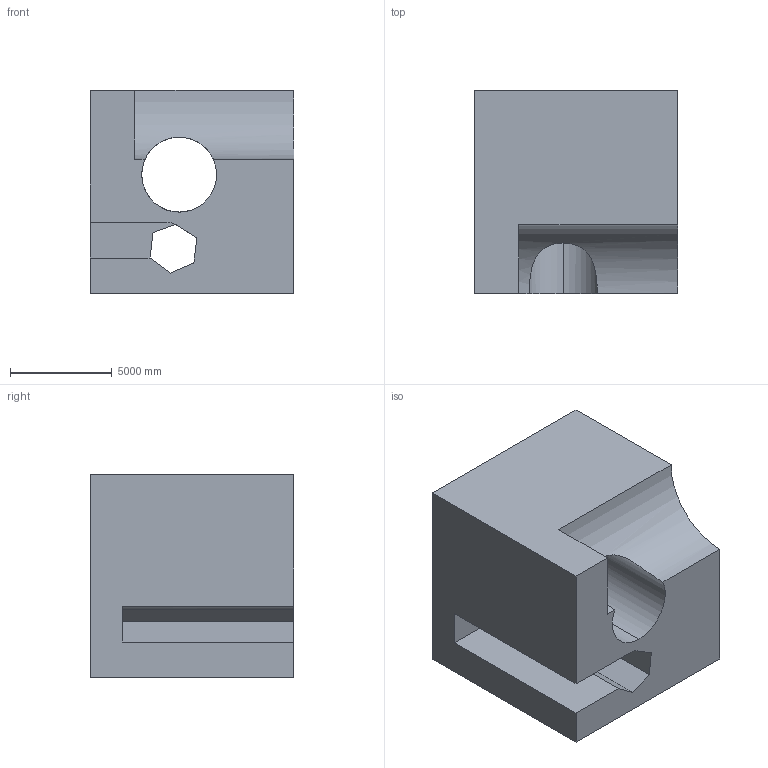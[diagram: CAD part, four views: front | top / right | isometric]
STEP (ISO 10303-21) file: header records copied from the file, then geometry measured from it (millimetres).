
FILE_DESCRIPTION (( 'STEP AP203' ), '1' );
FILE_NAME ('373.STEP', '2022-07-29T11:02:30', ( 'user' ), ( '' ), 'SwSTEP 2.0', 'SolidWorks 2021', '' );
FILE_SCHEMA (( 'CONFIG_CONTROL_DESIGN' ));
Length unit declared in the file: centimetre
Products named in the file (1): 373
Bounding box: 10000 x 10000 x 10000 mm (x, y, z)
Volume: 739617680933.9 mm3; surface area: 760849606.8 mm2
Topology: 1 solids, 1 shells, 21 faces, 60 edges, 39 vertices
Faces by surface type: plane 17, cylinder 4
Entity records: 951 total; most frequent: CARTESIAN_POINT 312, ORIENTED_EDGE 120, DIRECTION 111, EDGE_CURVE 60, VECTOR 49, LINE 49, VERTEX_POINT 39, AXIS2_PLACEMENT_3D 31
